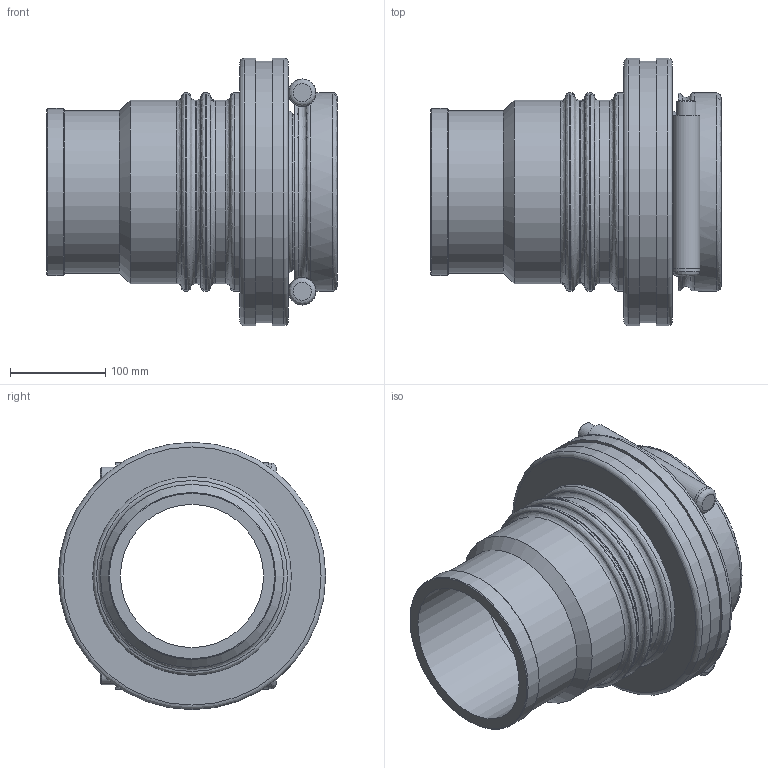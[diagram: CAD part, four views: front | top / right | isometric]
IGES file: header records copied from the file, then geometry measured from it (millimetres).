
Global section: file name: 073206160060_0732061600600A.ipt; native system: Autodesk Inventor 2015; preprocessor: unknown; author: Кирилл,,11,0; organization: 20170502.104018; date: 20170618.093409; units: millimetre
Bounding box: 304 x 280 x 280 mm (x, y, z)
Volume: 4602947 mm3; surface area: 465047.4 mm2
Topology: 1 solids, 1 shells, 70 faces, 167 edges, 110 vertices
Faces by surface type: revolution 28, cylinder 20, plane 17, cone 5
Full cylindrical faces by diameter (mm): 20.16 x2, 28.6 x2, 28.8 x2, 169.75 x1, 175 x1, 192 x3, 208 x4, 274.4 x1, 280 x2
